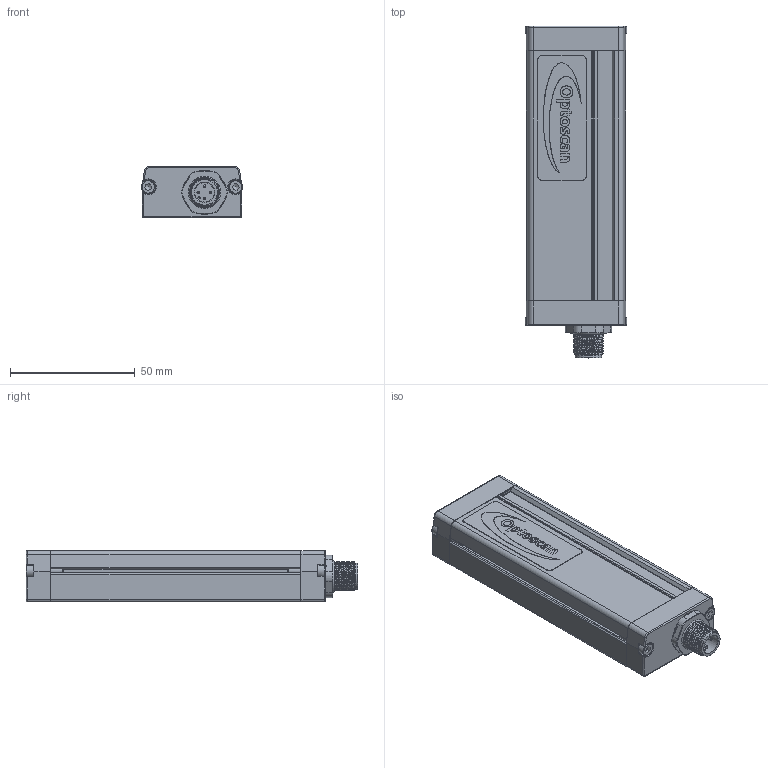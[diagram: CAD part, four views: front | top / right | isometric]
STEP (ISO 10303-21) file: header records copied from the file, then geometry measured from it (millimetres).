
FILE_DESCRIPTION(/* description */ (''),/* implementation_level */ '2;1');
FILE_NAME(/* name */ 'C:\Users\Andrea\SynologyDrive\Optoscan\Libreria Componenti\00 - Barriere\Argo_100_RX.stp',/* time_stamp */ '2022-06-29T15:10:30+02:00',/* author */ ('Andrea'),/* organization */ (''),/* preprocessor_version */ 'ST-DEVELOPER v18.1',/* originating_system */ 'Autodesk Inventor 2022',/* authorisation */ '');
FILE_SCHEMA (('AUTOMOTIVE_DESIGN { 1 0 10303 214 3 1 1 }'));
Length unit declared in the file: millimetre
Products named in the file (1): Argo_100_RX
Bounding box: 40.5 x 132.8 x 20.75 mm (x, y, z)
Volume: 30665.6 mm3; surface area: 36364.2 mm2
Topology: 1 solids, 2 shells, 753 faces, 2017 edges, 1278 vertices
Faces by surface type: plane 336, cylinder 216, bspline 115, torus 72, cone 8, sphere 6
Full cylindrical faces by diameter (mm): 1 x12, 1.2 x4, 2.459 x4, 2.5 x4, 3 x4, 3.5 x4, 5.5 x4, 8 x1, 10 x1, 10.5 x2, 11.75 x8, 12 x1, 12.3 x3, 14.5 x1, 16.7 x1, 17.5 x1
Entity records: 30151 total; most frequent: CARTESIAN_POINT 11037, ORIENTED_EDGE 4018, DIRECTION 3500, EDGE_CURVE 2009, VERTEX_POINT 1278, AXIS2_PLACEMENT_3D 1219, LINE 1062, VECTOR 1062
